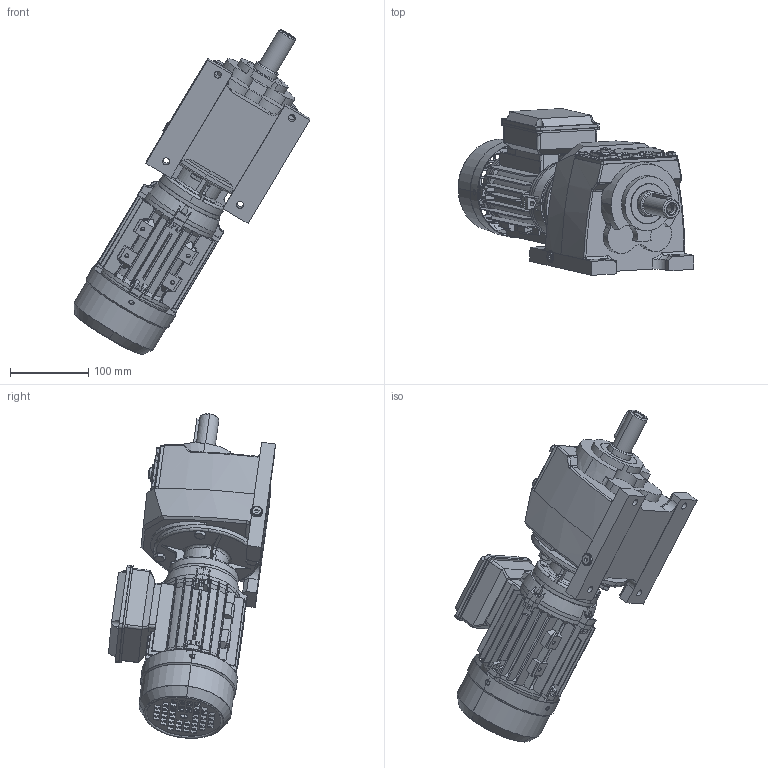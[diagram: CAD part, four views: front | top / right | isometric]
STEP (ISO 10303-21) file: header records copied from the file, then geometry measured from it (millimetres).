
FILE_DESCRIPTION (( 'STEP AP203' ), '1' );
FILE_NAME ('MV_103_0_MX-63.STEP', '2018-11-23T10:46:35', ( '' ), ( '' ), 'SwSTEP 2.0', 'SolidWorks 2012', '' );
FILE_SCHEMA (( 'CONFIG_CONTROL_DESIGN' ));
Length unit declared in the file: millimetre
Products named in the file (12): MV_103_0_MX-63; MX63_B14; Klemmnkastenunterteil_MS63; Klemmenkastendeckel_MS63; L黤terfl黦el_MS63; B14-Flansch_MS63; Lüfterhaube_MS63; Gehäuse_MS63; B-Lagerschild_MS63; ML12A_Varsayìlan; M103_Varsayìlan; 1363B14_Varsayìlan
Assembly tree (11 placements, depth 3):
  MV_103_0_MX-63
    M103_Varsayìlan
    1363B14_Varsayìlan
    ML12A_Varsayìlan
    MX63_B14
      Gehäuse_MS63
      B14-Flansch_MS63
      B-Lagerschild_MS63
      Lüfterhaube_MS63
      Klemmnkastenunterteil_MS63
      Klemmenkastendeckel_MS63
      L黤terfl黦el_MS63
Bounding box: 301.79 x 213.69 x 415.25 mm (x, y, z)
Volume: 3118389.7 mm3; surface area: 549177 mm2
Topology: 10 solids, 10 shells, 2114 faces, 5593 edges, 3572 vertices
Faces by surface type: plane 1057, cylinder 613, cone 259, bspline 122, torus 63
Entity records: 82120 total; most frequent: CARTESIAN_POINT 29945, ORIENTED_EDGE 11182, DIRECTION 9851, EDGE_CURVE 5591, VERTEX_POINT 3572, AXIS2_PLACEMENT_3D 3467, VECTOR 2917, LINE 2917
